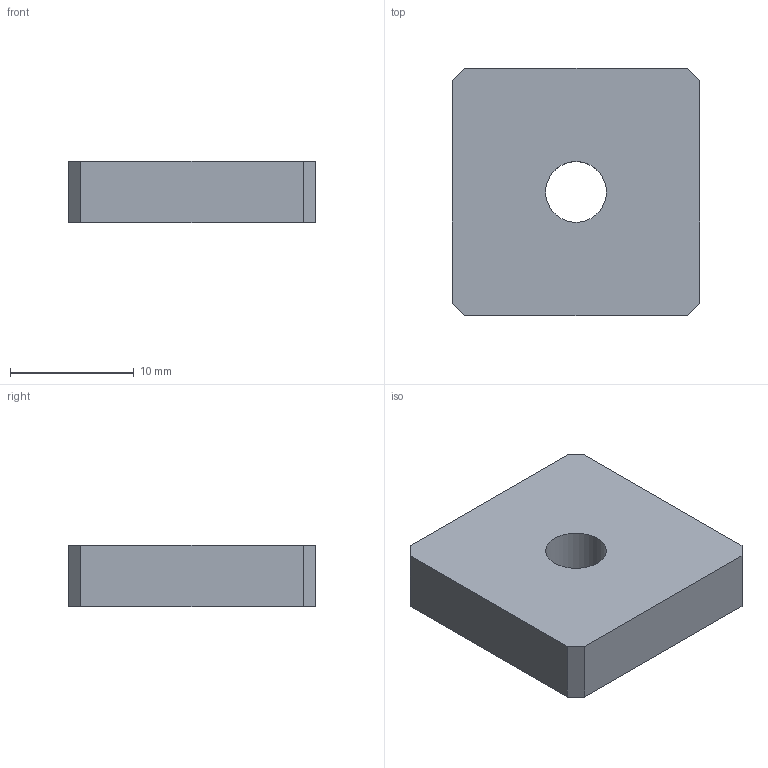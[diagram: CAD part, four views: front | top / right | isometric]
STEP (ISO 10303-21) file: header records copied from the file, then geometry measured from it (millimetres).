
FILE_DESCRIPTION((''),'2;1');
FILE_NAME('C:\Vault Klient\Projekt\Step\100-6020.stp','2009-12-10T09:47:46',('Mathias'),(''),'Autodesk Inventor 2010','Autodesk Inventor 2010','');
FILE_SCHEMA(('CONFIG_CONTROL_DESIGN'));
Length unit declared in the file: millimetre
Products named in the file (1): 100-6020
Bounding box: 20 x 20 x 5 mm (x, y, z)
Volume: 1895.1 mm3; surface area: 1223.5 mm2
Topology: 1 solids, 1 shells, 11 faces, 28 edges, 19 vertices
Faces by surface type: plane 10, bspline 1
Entity records: 361 total; most frequent: CARTESIAN_POINT 73, ORIENTED_EDGE 52, DIRECTION 50, EDGE_CURVE 26, VECTOR 24, LINE 24, VERTEX_POINT 18, EDGE_LOOP 14
